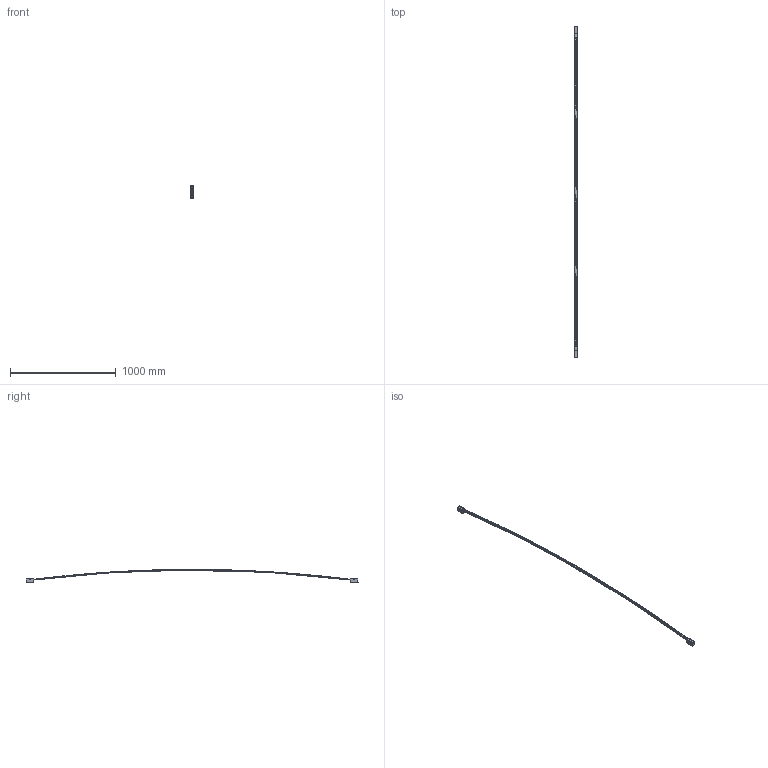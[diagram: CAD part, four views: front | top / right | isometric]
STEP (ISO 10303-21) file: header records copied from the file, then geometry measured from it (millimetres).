
FILE_DESCRIPTION(/* description */ (''),/* implementation_level */ '2;1');
FILE_NAME(/* name */ 'A138__~2',/* time_stamp */ '2024-07-02T12:07:18+02:00',/* author */ (''),/* organization */ (''),/* preprocessor_version */ 'ST-DEVELOPER v16.5',/* originating_system */ '',/* authorisation */ '');
FILE_SCHEMA (('AUTOMOTIVE_DESIGN'));
Length unit declared in the file: millimetre
Products named in the file (1): Document
Bounding box: 35 x 3142.61 x 126.52 mm (x, y, z)
Volume: 305447.3 mm3; surface area: 479696.7 mm2
Topology: 18 solids, 18 shells, 1219 faces, 2991 edges, 1802 vertices
Faces by surface type: bspline 849, plane 370
Entity records: 53403 total; most frequent: CARTESIAN_POINT 36074, ORIENTED_EDGE 5942, EDGE_CURVE 2971, VERTEX_POINT 1802, B_SPLINE_CURVE_WITH_KNOTS 1621, EDGE_LOOP 1285, ADVANCED_FACE 1219, FACE_OUTER_BOUND 1219
